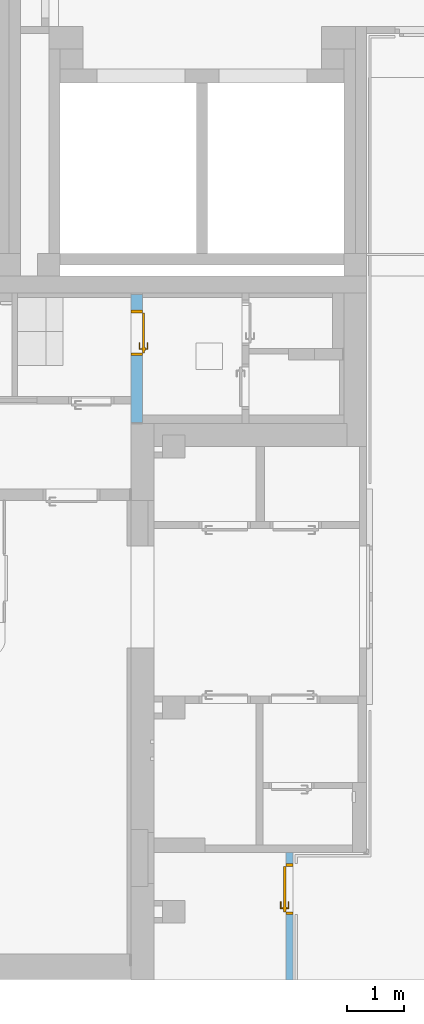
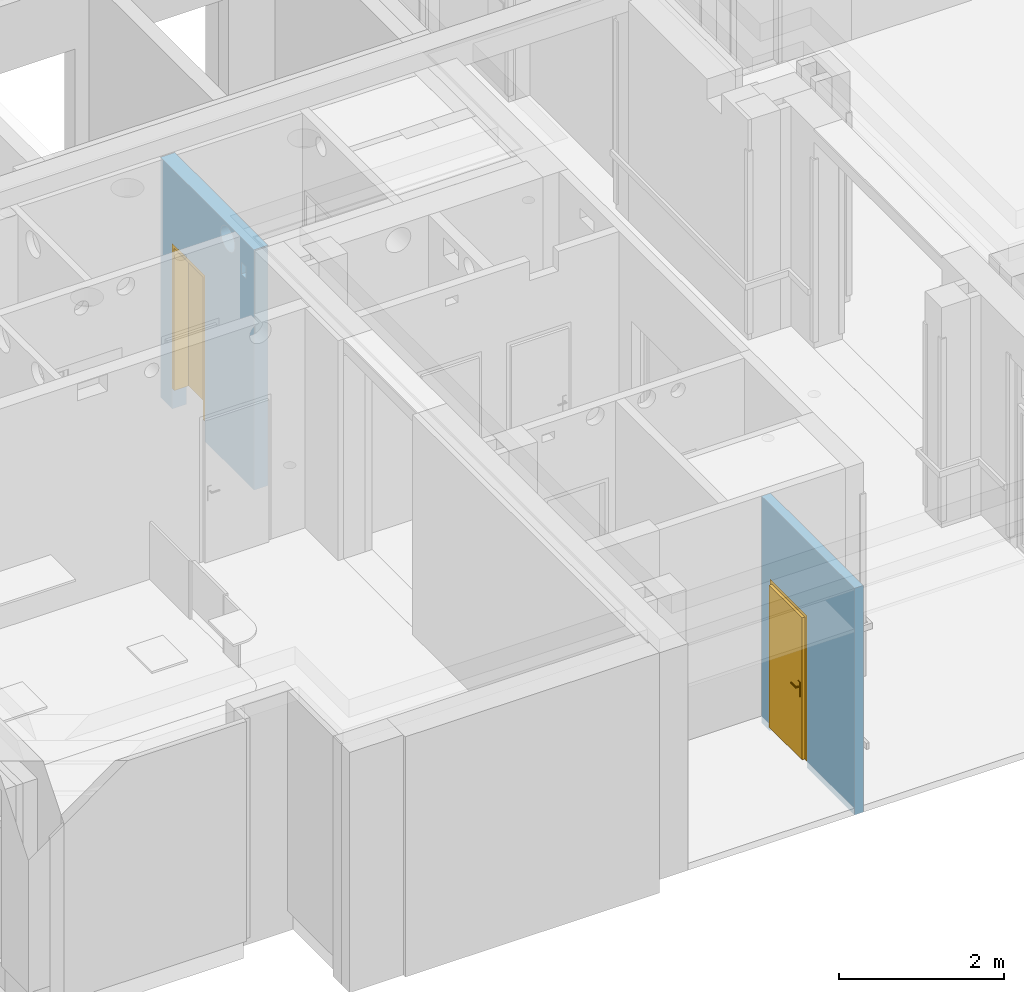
# One storey, part 73 of 140: 2 doors, 4 openings, plus 2 elements that do not belong to this part.
"""IFC4 building model written with IfcOpenShell, lengths in metres."""

from ifc_helpers import new_model, entity, si_unit, converted_unit, derived_unit, frame, frame_2d, origin, origin_with_axes, place, context, subcontext, project, spatial, polyline, rectangle, outline, extrude, closed_shell, open_shell, surface_model, source, transform, mapped, material, layer, layer_set, layer_usage, type_object, element, fill, save


model = new_model("IFC4")

# Units and contexts
model_context = context("Model", 3, precision=1e-05, world=origin())
body_context = subcontext(model_context, "Body", "Model", "MODEL_VIEW")
ifc_project = project(units=[si_unit("LENGTHUNIT", "METRE"), si_unit("AREAUNIT", "SQUARE_METRE"), si_unit("VOLUMEUNIT", "CUBIC_METRE"), si_unit("MASSUNIT", "GRAM", prefix="KILO"), converted_unit("PLANEANGLEUNIT", "DEGREE", entity("IfcPlaneAngleMeasure", 0.0174532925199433), si_unit("PLANEANGLEUNIT", "RADIAN"), dimensions=[0, 0, 0, 0, 0, 0, 0]), derived_unit("THERMALTRANSMITTANCEUNIT", [(si_unit("POWERUNIT", "WATT"), 1), (si_unit("THERMODYNAMICTEMPERATUREUNIT", "KELVIN"), -1), (si_unit("LENGTHUNIT", "METRE"), -2)]), derived_unit("VOLUMETRICFLOWRATEUNIT", [(si_unit("LENGTHUNIT", "METRE"), 3), (converted_unit("TIMEUNIT", "hour", entity("IfcTimeMeasure", 3600.0), si_unit("TIMEUNIT", "SECOND"), dimensions=[0, 0, 1, 0, 0, 0, 0]), -1), (si_unit("LENGTHUNIT", "METRE"), -1)])], contexts=[model_context])

# Site, building, storey
site_placement = place(None, origin())
site = spatial("IfcSite", under=ifc_project, at=site_placement, Name="3. ASŘ", CompositionType="ELEMENT")
building_placement = place(site_placement, origin())
building = spatial("IfcBuilding", under=site, at=building_placement, Name="Pavilon C", CompositionType="ELEMENT")
storey_placement = place(building_placement, origin())
storey = spatial("IfcBuildingStorey", under=building, at=storey_placement, Name="Půdorys 1.NP", CompositionType="ELEMENT", Elevation=0.0)

# Wall, openings, door
ifc_material_1 = material(Name="ZELEZOBETONOVÁ KCE")
ifc_layer_1 = layer(ifc_material_1, 0.2)
ifc_layer_set_1 = layer_set([ifc_layer_1])
ifc_layer_usage_1 = layer_usage(ifc_layer_set_1, "AXIS2", "POSITIVE", 0.0)
wall_1_placement = place(storey_placement, frame((36.8, -4.52, -0.3), z_axis=(0.0, 0.0, 1.0), x_axis=(0.0, -1.0, 0.0)))
wall_1 = element("IfcWall", 1, at=wall_1_placement, inside=storey, material=ifc_layer_usage_1, Name="ZELEZOBETONOVÁ KCE", context=body_context, shape_type="SweptSolid", body=[
    extrude(rectangle(XDim=2.26, YDim=0.2, at=frame_2d((1.13, 0.1), x_axis=(1.0, 0.0))), origin_with_axes(), (0.0, 0.0, 1.0), 3.55),
])
opening_1_placement = place(wall_1_placement, frame((1.08, 0.2, 0.0), z_axis=(0.0, -1.0, 0.0), x_axis=(0.0, 0.0, 1.0)))
opening_1 = element("IfcOpeningElement", 2, at=opening_1_placement, cuts=wall_1, Name="Dveřní otvor", ObjectType="Opening", context=body_context, shape_type="SweptSolid", body=[
    extrude(outline(polyline([(0.0, 0.8), (2.45, 0.8), (2.45, 0.0), (0.0, 0.0), (0.0, 0.8)])), origin_with_axes(), (0.0, 0.0, 1.0), 0.2),
])
opening_2_placement = place(wall_1_placement, frame((1.455, 0.0, 3.155), z_axis=(0.0, 1.0, 0.0), x_axis=(0.0, 0.0, 1.0)))
element("IfcOpeningElement", 3, at=opening_2_placement, cuts=wall_1, Name="VZT", ObjectType="Opening", context=body_context, shape_type="SweptSolid", body=[
    extrude(outline(polyline([(0.174999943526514, 0.0), (0.15670746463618, 0.000958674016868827), (0.138615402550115, 0.00382418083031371), (0.120921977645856, 0.00856512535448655), (0.103821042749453, 0.0151295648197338), (0.0874999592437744, 0.0234455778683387), (0.0721375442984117, 0.033422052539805), (0.0579021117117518, 0.0449496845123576), (0.0449496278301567, 0.0579021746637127), (0.0334220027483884, 0.0721376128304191), (0.02344553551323, 0.0875000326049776), (0.0151295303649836, 0.10382112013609), (0.00856509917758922, 0.120922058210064), (0.00382416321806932, 0.138615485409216), (0.000958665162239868, 0.156707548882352), (0.0, 0.175000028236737), (0.000958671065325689, 0.193292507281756), (0.00382417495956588, 0.211384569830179), (0.00856511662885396, 0.229077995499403), (0.0151295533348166, 0.246178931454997), (0.0234455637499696, 0.262500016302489), (0.0334220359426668, 0.277862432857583), (0.0449496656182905, 0.292097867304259), (0.0579021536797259, 0.305050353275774), (0.072137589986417, 0.316577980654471), (0.087500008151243, 0.3265544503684), (0.103821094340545, 0.3348704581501), (0.120922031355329, 0.341434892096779), (0.138615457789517, 0.346175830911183), (0.156707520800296, 0.349041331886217), (0.174999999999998, 0.35), (0.1932924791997, 0.349041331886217), (0.211384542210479, 0.346175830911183), (0.229077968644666, 0.341434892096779), (0.24617890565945, 0.3348704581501), (0.262499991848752, 0.3265544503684), (0.277862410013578, 0.316577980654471), (0.29209784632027, 0.305050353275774), (0.305050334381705, 0.292097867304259), (0.316577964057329, 0.277862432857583), (0.326554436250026, 0.262500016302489), (0.334870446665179, 0.246178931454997), (0.341434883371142, 0.229077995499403), (0.34617582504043, 0.211384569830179), (0.34904132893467, 0.193292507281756), (0.349999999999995, 0.175000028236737), (0.349041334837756, 0.156707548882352), (0.346175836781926, 0.138615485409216), (0.341434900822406, 0.120922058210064), (0.334870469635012, 0.10382112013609), (0.326554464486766, 0.0875000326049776), (0.316577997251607, 0.0721376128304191), (0.305050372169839, 0.0579021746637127), (0.292097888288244, 0.0449496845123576), (0.277862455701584, 0.033422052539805), (0.262500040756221, 0.0234455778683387), (0.246178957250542, 0.0151295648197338), (0.229078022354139, 0.00856512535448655), (0.21138459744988, 0.00382418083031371), (0.193292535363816, 0.000958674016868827), (0.174999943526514, 0.0)])), origin_with_axes(), (0.0, 0.0, 1.0), 0.2),
])
opening_3_placement = place(wall_1_placement, frame((2.065, 0.200000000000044, 3.01), z_axis=(0.0, -1.0, 0.0), x_axis=(0.0, 0.0, 1.0)))
element("IfcOpeningElement", 4, at=opening_3_placement, cuts=wall_1, Name="ZTI", ObjectType="Opening", context=body_context, shape_type="SweptSolid", body=[
    extrude(outline(polyline([(0.0, 0.11), (0.175, 0.11), (0.175, 0.0), (0.0, 0.0), (0.0, 0.11)])), origin_with_axes(), (0.0, 0.0, 1.0), 0.2),
])
door_type_1 = type_object("IfcDoorType", Name="II.D04", OperationType="NOTDEFINED", ParameterTakesPrecedence=False, PredefinedType="DOOR")
shared_shape_1 = source(origin_with_axes(), body_context, "Body", "SurfaceModel", [
    surface_model("IfcShellBasedSurfaceModel", [(0.0, 0.2, 2.149), (0.0, 0.2, -5.6843418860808e-17), (0.05, 0.2, -5.6843418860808e-17), (0.05, 0.2, 2.149), (0.0, 0.0, -5.6843418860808e-17), (0.0, 2.55795384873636e-16, 2.149), (0.05, 2.55795384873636e-16, 2.149), (0.05, 0.0, -5.6843418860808e-17)], [closed_shell([[[0, 1, 2, 3]], [[4, 5, 6, 7]], [[1, 0, 5, 4]], [[2, 1, 4, 7]], [[3, 2, 7, 6]], [[0, 3, 6, 5]]], orient=[[False], [False], [False], [False], [False], [False]])]),
    surface_model("IfcShellBasedSurfaceModel", [(0.75, 0.2, 2.149), (0.75, 0.2, -5.6843418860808e-17), (0.8, 0.2, -5.6843418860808e-17), (0.8, 0.2, 2.149), (0.75, 0.0, -5.6843418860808e-17), (0.75, 2.55795384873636e-16, 2.149), (0.8, 2.55795384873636e-16, 2.149), (0.8, 0.0, -5.6843418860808e-17)], [closed_shell([[[0, 1, 2, 3]], [[4, 5, 6, 7]], [[1, 0, 5, 4]], [[2, 1, 4, 7]], [[3, 2, 7, 6]], [[0, 3, 6, 5]]], orient=[[False], [False], [False], [False], [False], [False]])]),
    surface_model("IfcShellBasedSurfaceModel", [(0.05, 0.2, 2.149), (0.05, 0.2, 2.099), (0.75, 0.2, 2.099), (0.75, 0.2, 2.149), (0.05, 2.55795384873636e-16, 2.099), (0.05, 2.55795384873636e-16, 2.149), (0.75, 2.55795384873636e-16, 2.149), (0.75, 2.55795384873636e-16, 2.099)], [closed_shell([[[0, 1, 2, 3]], [[4, 5, 6, 7]], [[1, 0, 5, 4]], [[2, 1, 4, 7]], [[3, 2, 7, 6]], [[0, 3, 6, 5]]], orient=[[False], [False], [False], [False], [False], [False]])]),
    surface_model("IfcShellBasedSurfaceModel", [(0.05, 0.24, 2.099), (0.05, 0.24, -5.6843418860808e-17), (0.75, 0.24, -5.6843418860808e-17), (0.75, 0.24, 2.099), (0.05, 0.2, -5.6843418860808e-17), (0.05, 0.2, 2.099), (0.75, 0.2, 2.099), (0.75, 0.2, -5.6843418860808e-17)], [closed_shell([[[0, 1, 2, 3]], [[4, 5, 6, 7]], [[1, 0, 5, 4]], [[2, 1, 4, 7]], [[3, 2, 7, 6]], [[0, 3, 6, 5]]], orient=[[False], [False], [False], [False], [False], [False]])]),
    surface_model("IfcShellBasedSurfaceModel", [(0.66, 0.2, 1.125), (0.66, 0.2, 0.91), (0.71, 0.2, 0.91), (0.71, 0.2, 1.125), (0.66, 0.19, 0.91), (0.66, 0.19, 1.125), (0.71, 0.19, 1.125), (0.71, 0.19, 0.91)], [closed_shell([[[0, 1, 2, 3]], [[4, 5, 6, 7]], [[1, 0, 5, 4]], [[2, 1, 4, 7]], [[3, 2, 7, 6]], [[0, 3, 6, 5]]], orient=[[False], [False], [False], [False], [False], [False]])]),
    surface_model("IfcShellBasedSurfaceModel", [(0.685, 0.19, 1.06), (0.68, 0.19, 1.05866025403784), (0.676339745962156, 0.19, 1.055), (0.675, 0.19, 1.05), (0.676339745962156, 0.19, 1.045), (0.68, 0.19, 1.04133974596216), (0.685, 0.19, 1.04), (0.69, 0.19, 1.04133974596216), (0.693660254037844, 0.19, 1.045), (0.695, 0.19, 1.05), (0.693660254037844, 0.19, 1.055), (0.69, 0.19, 1.05866025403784), (0.69, 0.145, 1.05866025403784), (0.685, 0.15, 1.06), (0.693660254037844, 0.141339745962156, 1.055), (0.695, 0.14, 1.05), (0.693660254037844, 0.141339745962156, 1.045), (0.69, 0.145, 1.04133974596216), (0.685, 0.15, 1.04), (0.68, 0.155, 1.04133974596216), (0.676339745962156, 0.158660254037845, 1.045), (0.675, 0.16, 1.05), (0.676339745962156, 0.158660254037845, 1.055), (0.68, 0.155, 1.05866025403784), (0.57, 0.145, 1.05866025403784), (0.57, 0.15, 1.06), (0.57, 0.141339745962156, 1.055), (0.57, 0.14, 1.05), (0.57, 0.141339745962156, 1.045), (0.57, 0.145, 1.04133974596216), (0.57, 0.15, 1.04), (0.57, 0.155, 1.04133974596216), (0.57, 0.158660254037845, 1.045), (0.57, 0.16, 1.05), (0.57, 0.158660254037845, 1.055), (0.57, 0.155, 1.05866025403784)], [open_shell([[[0, 1, 2, 3, 4, 5, 6, 7, 8, 9, 10, 11]], [[0, 11, 12, 13]], [[11, 10, 14, 12]], [[10, 9, 15, 14]], [[9, 8, 16, 15]], [[8, 7, 17, 16]], [[7, 6, 18, 17]], [[6, 5, 19, 18]], [[5, 4, 20, 19]], [[4, 3, 21, 20]], [[3, 2, 22, 21]], [[2, 1, 23, 22]], [[1, 0, 13, 23]], [[13, 12, 24, 25]], [[12, 14, 26, 24]], [[14, 15, 27, 26]], [[15, 16, 28, 27]], [[16, 17, 29, 28]], [[17, 18, 30, 29]], [[18, 19, 31, 30]], [[19, 20, 32, 31]], [[20, 21, 33, 32]], [[21, 22, 34, 33]], [[22, 23, 35, 34]], [[23, 13, 25, 35]]], orient=[[False], [False], [False], [False], [False], [False], [False], [False], [False], [False], [False], [False], [False], [False], [False], [False], [False], [False], [False], [False], [False], [False], [False], [False], [False]])]),
    surface_model("IfcShellBasedSurfaceModel", [(0.66, 0.24, 1.125), (0.71, 0.24, 1.125), (0.71, 0.24, 0.91), (0.66, 0.24, 0.91), (0.66, 0.25, 0.91), (0.71, 0.25, 0.91), (0.71, 0.25, 1.125), (0.66, 0.25, 1.125)], [closed_shell([[[0, 1, 2, 3]], [[4, 5, 6, 7]], [[3, 4, 7, 0]], [[2, 5, 4, 3]], [[1, 6, 5, 2]], [[0, 7, 6, 1]]], orient=[[False], [False], [False], [False], [False], [False]])]),
    surface_model("IfcShellBasedSurfaceModel", [(0.685, 0.25, 1.06), (0.69, 0.25, 1.05866025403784), (0.693660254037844, 0.25, 1.055), (0.695, 0.25, 1.05), (0.693660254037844, 0.25, 1.045), (0.69, 0.25, 1.04133974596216), (0.685, 0.25, 1.04), (0.68, 0.25, 1.04133974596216), (0.676339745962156, 0.25, 1.045), (0.675, 0.25, 1.05), (0.676339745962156, 0.25, 1.055), (0.68, 0.25, 1.05866025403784), (0.685, 0.29, 1.06), (0.69, 0.295, 1.05866025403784), (0.693660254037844, 0.298660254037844, 1.055), (0.695, 0.3, 1.05), (0.693660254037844, 0.298660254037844, 1.045), (0.69, 0.295, 1.04133974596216), (0.685, 0.29, 1.04), (0.68, 0.285, 1.04133974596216), (0.676339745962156, 0.281339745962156, 1.045), (0.675, 0.28, 1.05), (0.676339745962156, 0.281339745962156, 1.055), (0.68, 0.285, 1.05866025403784), (0.57, 0.29, 1.06), (0.57, 0.295, 1.05866025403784), (0.57, 0.298660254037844, 1.055), (0.57, 0.3, 1.05), (0.57, 0.298660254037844, 1.045), (0.57, 0.295, 1.04133974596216), (0.57, 0.29, 1.04), (0.57, 0.285, 1.04133974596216), (0.57, 0.281339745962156, 1.045), (0.57, 0.28, 1.05), (0.57, 0.281339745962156, 1.055), (0.57, 0.285, 1.05866025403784)], [open_shell([[[0, 1, 2, 3, 4, 5, 6, 7, 8, 9, 10, 11]], [[0, 12, 13, 1]], [[1, 13, 14, 2]], [[2, 14, 15, 3]], [[3, 15, 16, 4]], [[4, 16, 17, 5]], [[5, 17, 18, 6]], [[6, 18, 19, 7]], [[7, 19, 20, 8]], [[8, 20, 21, 9]], [[9, 21, 22, 10]], [[10, 22, 23, 11]], [[11, 23, 12, 0]], [[12, 24, 25, 13]], [[13, 25, 26, 14]], [[14, 26, 27, 15]], [[15, 27, 28, 16]], [[16, 28, 29, 17]], [[17, 29, 30, 18]], [[18, 30, 31, 19]], [[19, 31, 32, 20]], [[20, 32, 33, 21]], [[21, 33, 34, 22]], [[22, 34, 35, 23]], [[23, 35, 24, 12]]], orient=[[False], [False], [False], [False], [False], [False], [False], [False], [False], [False], [False], [False], [False], [False], [False], [False], [False], [False], [False], [False], [False], [False], [False], [False], [False]])]),
])
door_1_placement = place(opening_1_placement, frame((0.301, 0.800000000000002, 0.200000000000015), z_axis=(1.0, 0.0, 0.0), x_axis=(0.0, -1.0, 2.44929359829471e-16)))
door_1 = element("IfcDoor", 5, at=door_1_placement, inside=storey, type_object=door_type_1, Name="II.D04", OverallHeight=2.45, OverallWidth=0.8, context=body_context, shape_type="MappedRepresentation", body=[
    mapped(shared_shape_1, transform((0.0, 0.0, 0.0), x_axis=(1.0, 0.0, 0.0), y_axis=(0.0, 1.0, 0.0), z_axis=(0.0, 0.0, 1.0), scale=1.0)),
])
fill(opening_1, door_1)

# Wall, opening, door
ifc_material_2 = material(Name="SDK - 1 KCE + DVOJITÉ OPLÁŠTĚNÍ")
ifc_layer_2 = layer(ifc_material_2, 0.125)
ifc_layer_set_2 = layer_set([ifc_layer_2])
ifc_layer_usage_2 = layer_usage(ifc_layer_set_2, "AXIS2", "POSITIVE", 0.0)
wall_2_placement = place(storey_placement, frame((39.65, -16.6, -0.1), z_axis=(0.0, 0.0, 1.0), x_axis=(0.0, 1.0, 0.0)))
wall_2 = element("IfcWall", 6, at=wall_2_placement, inside=storey, material=ifc_layer_usage_2, Name="SDK - 1 KCE + DVOJITÉ OPLÁŠTĚNÍ", context=body_context, shape_type="SweptSolid", body=[
    extrude(rectangle(XDim=2.24999999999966, YDim=0.125, at=frame_2d((1.12499999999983, 0.0625), x_axis=(1.0, 0.0))), origin_with_axes(), (0.0, 0.0, 1.0), 3.35),
])
opening_4_placement = place(wall_2_placement, frame((2.04999999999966, 0.125, 0.0), z_axis=(0.0, -1.0, 0.0), x_axis=(0.0, 0.0, 1.0)))
opening_4 = element("IfcOpeningElement", 7, at=opening_4_placement, cuts=wall_2, Name="Dveřní otvor", ObjectType="Opening", context=body_context, shape_type="SweptSolid", body=[
    extrude(outline(polyline([(0.0, 0.9), (2.25, 0.9), (2.25, 0.0), (0.0, 0.0), (0.0, 0.9)])), origin_with_axes(), (0.0, 0.0, 1.0), 0.125),
])
door_type_2 = type_object("IfcDoorType", Name="II.D13", OperationType="NOTDEFINED", ParameterTakesPrecedence=False, PredefinedType="DOOR")
shared_shape_2 = source(origin_with_axes(), body_context, "Body", "SurfaceModel", [
    surface_model("IfcShellBasedSurfaceModel", [(0.0, 0.0625, 0.0), (0.9, 0.0625, 0.0), (0.9, 0.0625, 0.1), (0.0, 0.0625, 0.1)], [open_shell([[[0, 1, 2, 3]]], orient=[[False]])]),
    surface_model("IfcShellBasedSurfaceModel", [(0.0, 0.125, 2.25), (0.0, 0.125, 0.101), (0.05, 0.125, 0.101), (0.05, 0.125, 2.25), (0.0, 0.0, 0.101), (0.0, 2.70006239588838e-16, 2.25), (0.05, 2.70006239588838e-16, 2.25), (0.05, 0.0, 0.101)], [closed_shell([[[0, 1, 2, 3]], [[4, 5, 6, 7]], [[1, 0, 5, 4]], [[2, 1, 4, 7]], [[3, 2, 7, 6]], [[0, 3, 6, 5]]], orient=[[False], [False], [False], [False], [False], [False]])]),
    surface_model("IfcShellBasedSurfaceModel", [(0.85, 0.125, 2.25), (0.85, 0.125, 0.101), (0.9, 0.125, 0.101), (0.9, 0.125, 2.25), (0.85, 0.0, 0.101), (0.85, 2.70006239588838e-16, 2.25), (0.9, 2.70006239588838e-16, 2.25), (0.9, 0.0, 0.101)], [closed_shell([[[0, 1, 2, 3]], [[4, 5, 6, 7]], [[1, 0, 5, 4]], [[2, 1, 4, 7]], [[3, 2, 7, 6]], [[0, 3, 6, 5]]], orient=[[False], [False], [False], [False], [False], [False]])]),
    surface_model("IfcShellBasedSurfaceModel", [(0.05, 0.125, 2.25), (0.05, 0.125, 2.2), (0.85, 0.125, 2.2), (0.85, 0.125, 2.25), (0.05, 2.55795384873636e-16, 2.2), (0.05, 2.55795384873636e-16, 2.25), (0.85, 2.55795384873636e-16, 2.25), (0.85, 2.55795384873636e-16, 2.2)], [closed_shell([[[0, 1, 2, 3]], [[4, 5, 6, 7]], [[1, 0, 5, 4]], [[2, 1, 4, 7]], [[3, 2, 7, 6]], [[0, 3, 6, 5]]], orient=[[False], [False], [False], [False], [False], [False]])]),
    surface_model("IfcShellBasedSurfaceModel", [(0.05, 0.165, 2.2), (0.05, 0.165, 0.101), (0.85, 0.165, 0.101), (0.85, 0.165, 2.2), (0.05, 0.125, 0.101), (0.05, 0.125, 2.2), (0.85, 0.125, 2.2), (0.85, 0.125, 0.101)], [closed_shell([[[0, 1, 2, 3]], [[4, 5, 6, 7]], [[1, 0, 5, 4]], [[2, 1, 4, 7]], [[3, 2, 7, 6]], [[0, 3, 6, 5]]], orient=[[False], [False], [False], [False], [False], [False]])]),
    surface_model("IfcShellBasedSurfaceModel", [(0.76, 0.125, 1.226), (0.76, 0.125, 1.011), (0.81, 0.125, 1.011), (0.81, 0.125, 1.226), (0.76, 0.115, 1.011), (0.76, 0.115, 1.226), (0.81, 0.115, 1.226), (0.81, 0.115, 1.011)], [closed_shell([[[0, 1, 2, 3]], [[4, 5, 6, 7]], [[1, 0, 5, 4]], [[2, 1, 4, 7]], [[3, 2, 7, 6]], [[0, 3, 6, 5]]], orient=[[False], [False], [False], [False], [False], [False]])]),
    surface_model("IfcShellBasedSurfaceModel", [(0.785, 0.115, 1.161), (0.78, 0.115, 1.15966025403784), (0.776339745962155, 0.115, 1.156), (0.775, 0.115, 1.151), (0.776339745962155, 0.115, 1.146), (0.78, 0.115, 1.14233974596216), (0.785, 0.115, 1.141), (0.79, 0.115, 1.14233974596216), (0.793660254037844, 0.115, 1.146), (0.795, 0.115, 1.151), (0.793660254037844, 0.115, 1.156), (0.79, 0.115, 1.15966025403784), (0.79, 0.0700000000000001, 1.15966025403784), (0.785, 0.0750000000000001, 1.161), (0.793660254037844, 0.0663397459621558, 1.156), (0.795, 0.0650000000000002, 1.151), (0.793660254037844, 0.0663397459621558, 1.146), (0.79, 0.0700000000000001, 1.14233974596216), (0.785, 0.0750000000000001, 1.141), (0.78, 0.0800000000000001, 1.14233974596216), (0.776339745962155, 0.0836602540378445, 1.146), (0.775, 0.0850000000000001, 1.151), (0.776339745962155, 0.0836602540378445, 1.156), (0.78, 0.0800000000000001, 1.15966025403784), (0.67, 0.0700000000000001, 1.15966025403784), (0.67, 0.0750000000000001, 1.161), (0.67, 0.0663397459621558, 1.156), (0.67, 0.0650000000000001, 1.151), (0.67, 0.0663397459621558, 1.146), (0.67, 0.0700000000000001, 1.14233974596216), (0.67, 0.0750000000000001, 1.141), (0.67, 0.0800000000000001, 1.14233974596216), (0.67, 0.0836602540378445, 1.146), (0.67, 0.0850000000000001, 1.151), (0.67, 0.0836602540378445, 1.156), (0.67, 0.0800000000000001, 1.15966025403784)], [open_shell([[[0, 1, 2, 3, 4, 5, 6, 7, 8, 9, 10, 11]], [[0, 11, 12, 13]], [[11, 10, 14, 12]], [[10, 9, 15, 14]], [[9, 8, 16, 15]], [[8, 7, 17, 16]], [[7, 6, 18, 17]], [[6, 5, 19, 18]], [[5, 4, 20, 19]], [[4, 3, 21, 20]], [[3, 2, 22, 21]], [[2, 1, 23, 22]], [[1, 0, 13, 23]], [[13, 12, 24, 25]], [[12, 14, 26, 24]], [[14, 15, 27, 26]], [[15, 16, 28, 27]], [[16, 17, 29, 28]], [[17, 18, 30, 29]], [[18, 19, 31, 30]], [[19, 20, 32, 31]], [[20, 21, 33, 32]], [[21, 22, 34, 33]], [[22, 23, 35, 34]], [[23, 13, 25, 35]]], orient=[[False], [False], [False], [False], [False], [False], [False], [False], [False], [False], [False], [False], [False], [False], [False], [False], [False], [False], [False], [False], [False], [False], [False], [False], [False]])]),
    surface_model("IfcShellBasedSurfaceModel", [(0.76, 0.165, 1.226), (0.81, 0.165, 1.226), (0.81, 0.165, 1.011), (0.76, 0.165, 1.011), (0.76, 0.175, 1.011), (0.81, 0.175, 1.011), (0.81, 0.175, 1.226), (0.76, 0.175, 1.226)], [closed_shell([[[0, 1, 2, 3]], [[4, 5, 6, 7]], [[3, 4, 7, 0]], [[2, 5, 4, 3]], [[1, 6, 5, 2]], [[0, 7, 6, 1]]], orient=[[False], [False], [False], [False], [False], [False]])]),
    surface_model("IfcShellBasedSurfaceModel", [(0.785, 0.175, 1.161), (0.79, 0.175, 1.15966025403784), (0.793660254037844, 0.175, 1.156), (0.795, 0.175, 1.151), (0.793660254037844, 0.175, 1.146), (0.79, 0.175, 1.14233974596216), (0.785, 0.175, 1.141), (0.78, 0.175, 1.14233974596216), (0.776339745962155, 0.175, 1.146), (0.775, 0.175, 1.151), (0.776339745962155, 0.175, 1.156), (0.78, 0.175, 1.15966025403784), (0.785, 0.215, 1.161), (0.79, 0.22, 1.15966025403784), (0.793660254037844, 0.223660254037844, 1.156), (0.795, 0.225, 1.151), (0.793660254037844, 0.223660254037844, 1.146), (0.79, 0.22, 1.14233974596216), (0.785, 0.215, 1.141), (0.78, 0.21, 1.14233974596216), (0.776339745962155, 0.206339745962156, 1.146), (0.775, 0.205, 1.151), (0.776339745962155, 0.206339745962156, 1.156), (0.78, 0.21, 1.15966025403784), (0.67, 0.215, 1.161), (0.67, 0.22, 1.15966025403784), (0.67, 0.223660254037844, 1.156), (0.67, 0.225, 1.151), (0.67, 0.223660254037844, 1.146), (0.67, 0.22, 1.14233974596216), (0.67, 0.215, 1.141), (0.67, 0.21, 1.14233974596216), (0.67, 0.206339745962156, 1.146), (0.67, 0.205, 1.151), (0.67, 0.206339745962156, 1.156), (0.67, 0.21, 1.15966025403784)], [open_shell([[[0, 1, 2, 3, 4, 5, 6, 7, 8, 9, 10, 11]], [[0, 12, 13, 1]], [[1, 13, 14, 2]], [[2, 14, 15, 3]], [[3, 15, 16, 4]], [[4, 16, 17, 5]], [[5, 17, 18, 6]], [[6, 18, 19, 7]], [[7, 19, 20, 8]], [[8, 20, 21, 9]], [[9, 21, 22, 10]], [[10, 22, 23, 11]], [[11, 23, 12, 0]], [[12, 24, 25, 13]], [[13, 25, 26, 14]], [[14, 26, 27, 15]], [[15, 27, 28, 16]], [[16, 28, 29, 17]], [[17, 29, 30, 18]], [[18, 30, 31, 19]], [[19, 31, 32, 20]], [[20, 32, 33, 21]], [[21, 33, 34, 22]], [[22, 34, 35, 23]], [[23, 35, 24, 12]]], orient=[[False], [False], [False], [False], [False], [False], [False], [False], [False], [False], [False], [False], [False], [False], [False], [False], [False], [False], [False], [False], [False], [False], [False], [False], [False]])]),
])
door_2_placement = place(opening_4_placement, frame((0.0, -3.63797880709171e-15, 0.124999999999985), z_axis=(1.0, 0.0, 0.0), x_axis=(0.0, 1.0, -1.22464679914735e-16)))
door_2 = element("IfcDoor", 8, at=door_2_placement, inside=storey, type_object=door_type_2, Name="II.D13", OverallHeight=2.25, OverallWidth=0.9, context=body_context, shape_type="MappedRepresentation", body=[
    mapped(shared_shape_2, transform((0.0, 0.0, 0.0), x_axis=(1.0, 0.0, 0.0), y_axis=(0.0, -1.0, 0.0), z_axis=(0.0, 0.0, 1.0), scale=1.0)),
])
fill(opening_4, door_2)

save(model, "model.ifc")
